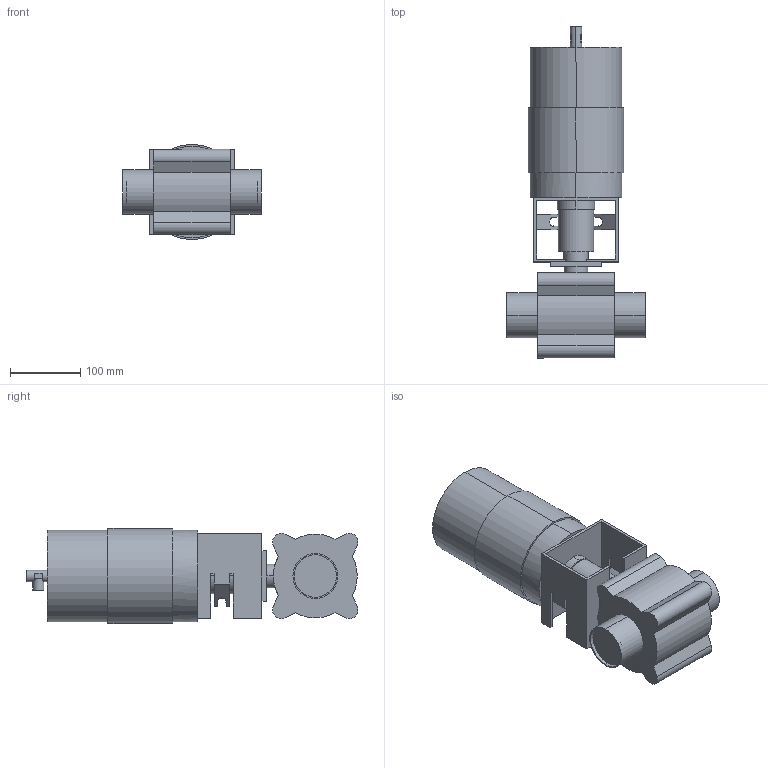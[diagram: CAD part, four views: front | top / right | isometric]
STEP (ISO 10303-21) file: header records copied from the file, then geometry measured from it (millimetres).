
FILE_DESCRIPTION(('Creo Elements/Direct Modeling STEP Export'),'2;1');
FILE_NAME('BLV1-2.5T-NC-12S.stp','2019-05-10T 8:16:29',(''),(''),'Creo Elements/Direct Modeling STEP processor for AP214 (Solid Model)','Creo Elements/Direct Modeling 19.0F 14-Feb-2017 (C) Parametric Technology GmbH','');
FILE_SCHEMA(('AUTOMOTIVE_DESIGN { 1 0 10303 214 1 1 1 1 }'));
Length unit declared in the file: millimetre
Products named in the file (2): BLV1-2.5T-NC-12S
Assembly tree (1 placements, depth 2):
  BLV1-2.5T-NC-12S
    BLV1-2.5T-NC-12S
Bounding box: 197 x 471.34 x 135 mm (x, y, z)
Volume: 5012118.2 mm3; surface area: 302897 mm2
Topology: 1 solids, 1 shells, 130 faces, 341 edges, 222 vertices
Faces by surface type: plane 92, cylinder 38
Entity records: 3644 total; most frequent: ORIENTED_EDGE 682, CARTESIAN_POINT 649, DIRECTION 536, EDGE_CURVE 341, VERTEX_POINT 222, VECTOR 216, LINE 216, AXIS2_PLACEMENT_3D 160
